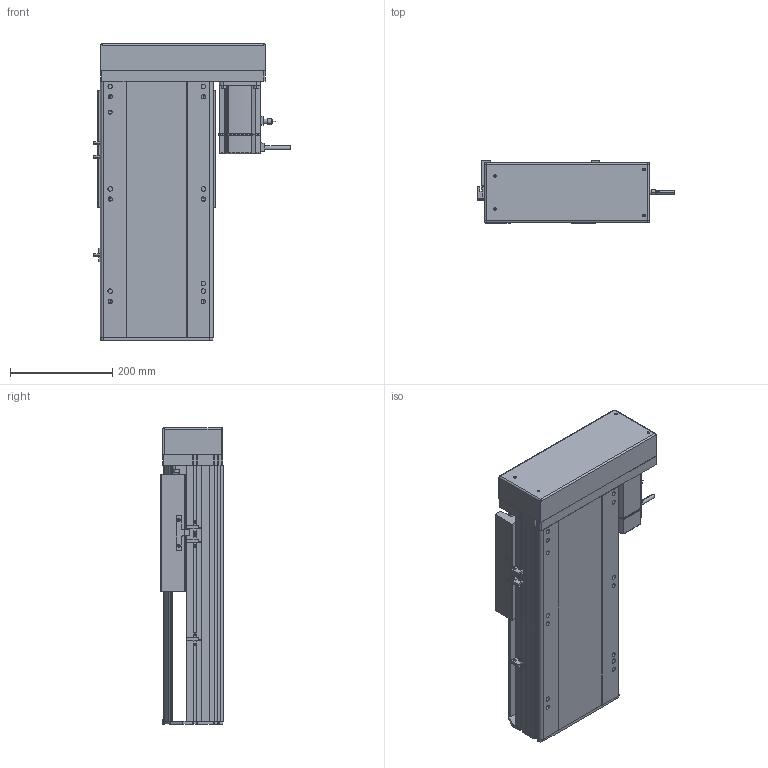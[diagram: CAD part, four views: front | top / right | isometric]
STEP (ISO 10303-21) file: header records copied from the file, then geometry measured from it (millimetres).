
FILE_DESCRIPTION (( 'STEP AP214' ), '1' );
FILE_NAME ('RTH22-XX-200-L-M75-C4.STEP', '2025-10-24T10:54:58', ( 'Microsoft' ), ( 'Microsoft' ), 'SwSTEP 2.0', 'SolidWorks 2018', '' );
FILE_SCHEMA (( 'AUTOMOTIVE_DESIGN' ));
Length unit declared in the file: millimetre
Products named in the file (10): N_RTH22-GY-013外置感应片^RTH22-XX-XX-L-M75-C4; N_RTH22-L-011菁釱^RTH22-XX-XX-L-M75-C4; N_RTH22-L-004-SFS25賑釱^RTH22-XX-XX-L-M75-C4; N_OMRON EE-SX672 传感器^RTH22-XX-XX-L-M75-C4; N_RTH22-L-008-P75萇儂啣^RTH22-XX-XX-L-M75-C4; RTH22-XX-200-L-M75-C4; N_RTH22-L-018裔赽^RTH22-XX-XX-L-M75-C4; N_RTH22-GY-001耜裔^RTH22-XX-XX-L-M75-C4; N_RTH22-L-007奻裔^RTH22-XX-XX-L-M75-C4; N_750W萇儂^RTH22-XX-XX-L-M75-C4
Assembly tree (11 placements, depth 2):
  RTH22-XX-200-L-M75-C4
    N_RTH22-L-011菁釱^RTH22-XX-XX-L-M75-C4
    N_RTH22-GY-001耜裔^RTH22-XX-XX-L-M75-C4
    N_750W萇儂^RTH22-XX-XX-L-M75-C4
    N_RTH22-L-008-P75萇儂啣^RTH22-XX-XX-L-M75-C4
    N_RTH22-L-007奻裔^RTH22-XX-XX-L-M75-C4
    N_RTH22-L-018裔赽^RTH22-XX-XX-L-M75-C4
    N_OMRON EE-SX672 传感器^RTH22-XX-XX-L-M75-C4  x3
    N_RTH22-GY-013外置感应片^RTH22-XX-XX-L-M75-C4
    N_RTH22-L-004-SFS25賑釱^RTH22-XX-XX-L-M75-C4
Bounding box: 384.7 x 122 x 579.7 mm (x, y, z)
Volume: 9558802.2 mm3; surface area: 1187747.6 mm2
Topology: 11 solids, 11 shells, 1534 faces, 4179 edges, 2701 vertices
Faces by surface type: plane 787, cylinder 422, bspline 279, cone 46
Entity records: 37703 total; most frequent: CARTESIAN_POINT 11670, ORIENTED_EDGE 5358, DIRECTION 4989, EDGE_CURVE 2679, VERTEX_POINT 1737, LINE 1693, VECTOR 1693, AXIS2_PLACEMENT_3D 1648
